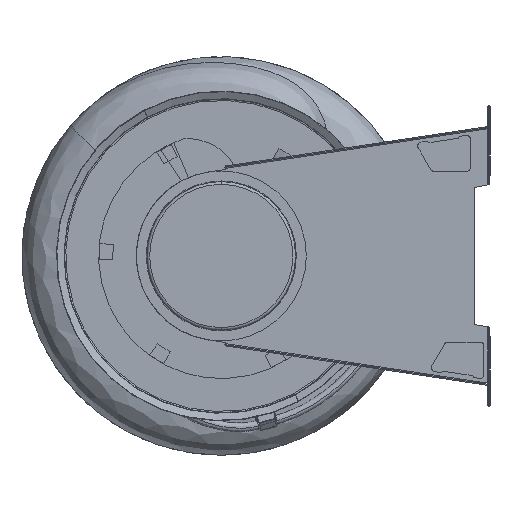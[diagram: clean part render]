
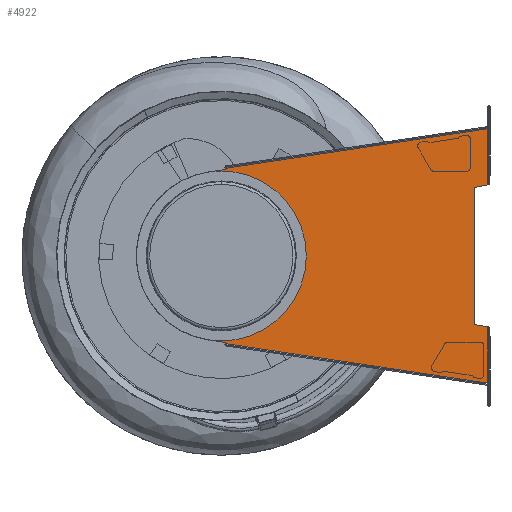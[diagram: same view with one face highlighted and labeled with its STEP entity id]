
A CAD part, left-side view. The second image highlights one B-rep face of the part: STEP entity #4922.
In plain terms, the highlighted planar face has unit normal (-1, 0, 0).
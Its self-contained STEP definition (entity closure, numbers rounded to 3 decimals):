
#3508=DIRECTION('',(0.,0.,1.));
#3509=VECTOR('',#3508,250.);
#3510=CARTESIAN_POINT('',(-724.,-461.142,-125.));
#3511=LINE('',#3510,#3509);
#3524=CARTESIAN_POINT('',(-724.,0.,0.));
#3525=DIRECTION('',(-1.,0.,0.));
#3526=DIRECTION('',(0.,1.,0.));
#3527=AXIS2_PLACEMENT_3D('',#3524,#3525,#3526);
#3529=CARTESIAN_POINT('',(-724.,0.,0.));
#3530=DIRECTION('',(-1.,0.,0.));
#3531=DIRECTION('',(0.,-1.,0.));
#3532=AXIS2_PLACEMENT_3D('',#3529,#3530,#3531);
#3534=DIRECTION('',(0.,-0.989,0.149));
#3535=VECTOR('',#3534,3.105);
#3536=CARTESIAN_POINT('',(-724.,23.07,153.273));
#3537=LINE('',#3536,#3535);
#3538=DIRECTION('',(0.,-0.989,0.149));
#3539=VECTOR('',#3538,6.895);
#3540=CARTESIAN_POINT('',(-724.,20.,153.736));
#3541=LINE('',#3540,#3539);
#3542=DIRECTION('',(0.,-0.989,0.149));
#3543=VECTOR('',#3542,20.342);
#3544=CARTESIAN_POINT('',(-724.,13.182,154.762));
#3545=LINE('',#3544,#3543);
#3546=CARTESIAN_POINT('',(-724.,-21.767,160.022));
#3547=DIRECTION('',(1.,0.,0.));
#3548=DIRECTION('',(0.,0.989,-0.149));
#3549=AXIS2_PLACEMENT_3D('',#3546,#3547,#3548);
#3551=DIRECTION('',(0.,-0.989,0.149));
#3552=VECTOR('',#3551,3.853);
#3553=CARTESIAN_POINT('',(-724.,-482.19,231.347));
#3554=LINE('',#3553,#3552);
#3555=DIRECTION('',(0.,0.985,-0.174));
#3556=VECTOR('',#3555,25.242);
#3557=CARTESIAN_POINT('',(-724.,-486.,129.383));
#3558=LINE('',#3557,#3556);
#3559=DIRECTION('',(0.,0.985,0.174));
#3560=VECTOR('',#3559,25.242);
#3561=CARTESIAN_POINT('',(-724.,-486.,-129.383));
#3562=LINE('',#3561,#3560);
#3563=DIRECTION('',(0.,0.989,0.149));
#3564=VECTOR('',#3563,3.853);
#3565=CARTESIAN_POINT('',(-724.,-486.,-231.92));
#3566=LINE('',#3565,#3564);
#3567=CARTESIAN_POINT('',(-724.,-21.767,-160.022));
#3568=DIRECTION('',(1.,0.,0.));
#3569=DIRECTION('',(0.,1.,0.016));
#3570=AXIS2_PLACEMENT_3D('',#3567,#3568,#3569);
#3572=DIRECTION('',(0.,-0.989,-0.149));
#3573=VECTOR('',#3572,20.342);
#3574=CARTESIAN_POINT('',(-724.,13.182,-154.762));
#3575=LINE('',#3574,#3573);
#3576=DIRECTION('',(0.,-0.989,-0.149));
#3577=VECTOR('',#3576,6.895);
#3578=CARTESIAN_POINT('',(-724.,20.,-153.736));
#3579=LINE('',#3578,#3577);
#3580=DIRECTION('',(0.,-0.989,-0.149));
#3581=VECTOR('',#3580,3.105);
#3582=CARTESIAN_POINT('',(-724.,23.07,-153.273));
#3583=LINE('',#3582,#3581);
#3589=CARTESIAN_POINT('',(-724.,0.,0.));
#3590=DIRECTION('',(-1.,0.,0.));
#3591=DIRECTION('',(0.,0.149,0.989));
#3592=AXIS2_PLACEMENT_3D('',#3589,#3590,#3591);
#3626=CARTESIAN_POINT('',(-724.,-6.769,159.787));
#3649=DIRECTION('',(0.,-0.989,0.149));
#3650=VECTOR('',#3649,480.777);
#3651=CARTESIAN_POINT('',(-724.,-6.769,159.787));
#3652=LINE('',#3651,#3650);
#3790=DIRECTION('',(0.,0.,-1.));
#3791=VECTOR('',#3790,102.537);
#3792=CARTESIAN_POINT('',(-724.,-486.,231.92));
#3793=LINE('',#3792,#3791);
#4202=DIRECTION('',(0.,0.,1.));
#4203=VECTOR('',#4202,102.537);
#4204=CARTESIAN_POINT('',(-724.,-486.,-231.92));
#4205=LINE('',#4204,#4203);
#4373=CARTESIAN_POINT('',(-724.,-6.769,-159.787));
#4387=DIRECTION('',(0.,-0.989,-0.149));
#4388=VECTOR('',#4387,480.777);
#4389=CARTESIAN_POINT('',(-724.,-6.769,-159.787));
#4390=LINE('',#4389,#4388);
#4524=CARTESIAN_POINT('',(-724.,-33.,0.));
#4525=CARTESIAN_POINT('',(-724.,33.,0.));
#4526=VERTEX_POINT('',#4524);
#4527=VERTEX_POINT('',#4525);
#4529=CARTESIAN_POINT('',(-724.,23.07,-153.273));
#4531=VERTEX_POINT('',#4529);
#4548=CARTESIAN_POINT('',(-724.,-486.,-231.92));
#4549=CARTESIAN_POINT('',(-724.,-482.19,-231.347));
#4550=VERTEX_POINT('',#4548);
#4551=VERTEX_POINT('',#4549);
#4602=CARTESIAN_POINT('',(-724.,-486.,-129.383));
#4603=VERTEX_POINT('',#4602);
#4605=CARTESIAN_POINT('',(-724.,23.07,153.273));
#4607=VERTEX_POINT('',#4605);
#4624=CARTESIAN_POINT('',(-724.,-486.,231.92));
#4625=CARTESIAN_POINT('',(-724.,-482.19,231.347));
#4626=VERTEX_POINT('',#4624);
#4627=VERTEX_POINT('',#4625);
#4665=CARTESIAN_POINT('',(-724.,-486.,129.383));
#4666=VERTEX_POINT('',#4665);
#4671=CARTESIAN_POINT('',(-724.,-461.142,-125.));
#4672=VERTEX_POINT('',#4671);
#4677=CARTESIAN_POINT('',(-724.,-461.142,125.));
#4678=VERTEX_POINT('',#4677);
#4687=CARTESIAN_POINT('',(-724.,20.,-153.736));
#4688=CARTESIAN_POINT('',(-724.,13.182,-154.762));
#4689=VERTEX_POINT('',#4687);
#4690=VERTEX_POINT('',#4688);
#4696=VERTEX_POINT('',#4373);
#4705=CARTESIAN_POINT('',(-724.,20.,153.736));
#4706=CARTESIAN_POINT('',(-724.,13.182,154.762));
#4707=VERTEX_POINT('',#4705);
#4708=VERTEX_POINT('',#4706);
#4714=VERTEX_POINT('',#3626);
#4733=CARTESIAN_POINT('',(-724.,-6.934,-157.79));
#4734=VERTEX_POINT('',#4733);
#4737=CARTESIAN_POINT('',(-724.,-6.934,157.79));
#4738=VERTEX_POINT('',#4737);
#4874=CARTESIAN_POINT('',(-724.,0.,0.));
#4875=DIRECTION('',(-1.,0.,0.));
#4876=DIRECTION('',(0.,0.,1.));
#4877=AXIS2_PLACEMENT_3D('',#4874,#4875,#4876);
#4878=PLANE('',#4877);
#4880=ORIENTED_EDGE('',*,*,#4879,.F.);
#4882=ORIENTED_EDGE('',*,*,#4881,.T.);
#4884=ORIENTED_EDGE('',*,*,#4883,.T.);
#4886=ORIENTED_EDGE('',*,*,#4885,.T.);
#4888=ORIENTED_EDGE('',*,*,#4887,.T.);
#4890=ORIENTED_EDGE('',*,*,#4889,.T.);
#4892=ORIENTED_EDGE('',*,*,#4891,.T.);
#4894=ORIENTED_EDGE('',*,*,#4893,.T.);
#4896=ORIENTED_EDGE('',*,*,#4895,.T.);
#4897=ORIENTED_EDGE('',*,*,#4857,.F.);
#4899=ORIENTED_EDGE('',*,*,#4898,.F.);
#4901=ORIENTED_EDGE('',*,*,#4900,.F.);
#4903=ORIENTED_EDGE('',*,*,#4902,.T.);
#4905=ORIENTED_EDGE('',*,*,#4904,.F.);
#4907=ORIENTED_EDGE('',*,*,#4906,.T.);
#4909=ORIENTED_EDGE('',*,*,#4908,.F.);
#4911=ORIENTED_EDGE('',*,*,#4910,.F.);
#4913=ORIENTED_EDGE('',*,*,#4912,.F.);
#4914=EDGE_LOOP('',(#4880,#4882,#4884,#4886,#4888,#4890,#4892,#4894,#4896,#4897,
#4899,#4901,#4903,#4905,#4907,#4909,#4911,#4913));
#4915=FACE_OUTER_BOUND('',#4914,.F.);
#4917=ORIENTED_EDGE('',*,*,#4916,.T.);
#4919=ORIENTED_EDGE('',*,*,#4918,.T.);
#4920=EDGE_LOOP('',(#4917,#4919));
#4921=FACE_BOUND('',#4920,.F.);
#3528=CIRCLE('',#3527,33.);
#3533=CIRCLE('',#3532,33.);
#3550=CIRCLE('',#3549,15.);
#3571=CIRCLE('',#3570,15.);
#3593=CIRCLE('',#3592,155.);
#4857=EDGE_CURVE('',#4672,#4678,#3511,.T.);
#4879=EDGE_CURVE('',#4607,#4531,#3593,.T.);
#4881=EDGE_CURVE('',#4607,#4707,#3537,.T.);
#4883=EDGE_CURVE('',#4707,#4708,#3541,.T.);
#4885=EDGE_CURVE('',#4708,#4738,#3545,.T.);
#4887=EDGE_CURVE('',#4738,#4714,#3550,.T.);
#4889=EDGE_CURVE('',#4714,#4627,#3652,.T.);
#4891=EDGE_CURVE('',#4627,#4626,#3554,.T.);
#4893=EDGE_CURVE('',#4626,#4666,#3793,.T.);
#4895=EDGE_CURVE('',#4666,#4678,#3558,.T.);
#4898=EDGE_CURVE('',#4603,#4672,#3562,.T.);
#4900=EDGE_CURVE('',#4550,#4603,#4205,.T.);
#4902=EDGE_CURVE('',#4550,#4551,#3566,.T.);
#4904=EDGE_CURVE('',#4696,#4551,#4390,.T.);
#4906=EDGE_CURVE('',#4696,#4734,#3571,.T.);
#4908=EDGE_CURVE('',#4690,#4734,#3575,.T.);
#4910=EDGE_CURVE('',#4689,#4690,#3579,.T.);
#4912=EDGE_CURVE('',#4531,#4689,#3583,.T.);
#4916=EDGE_CURVE('',#4527,#4526,#3528,.T.);
#4918=EDGE_CURVE('',#4526,#4527,#3533,.T.);
#4922=ADVANCED_FACE('',(#4915,#4921),#4878,.T.);
